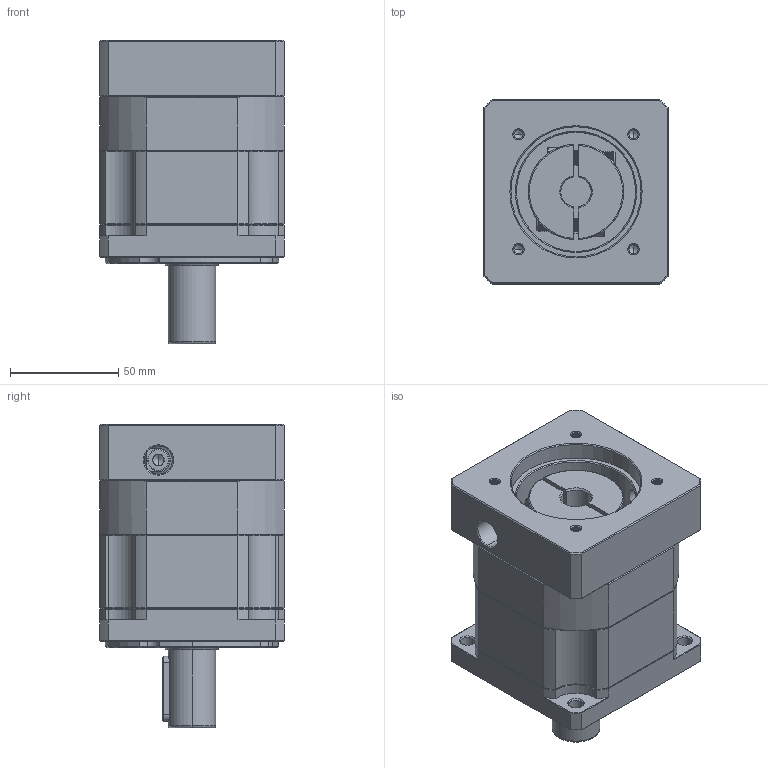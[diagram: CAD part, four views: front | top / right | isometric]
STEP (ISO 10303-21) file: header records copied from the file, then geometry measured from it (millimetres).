
FILE_DESCRIPTION (( 'STEP AP214' ), '1' );
FILE_NAME ('ZB090-D22-L1-P2-14-60-75-M5.step', '2023-08-18T12:12:19', ( '' ), ( '' ), 'SwSTEP 2.0', 'SolidWorks 2016', '' );
FILE_SCHEMA (( 'AUTOMOTIVE_DESIGN' ));
Length unit declared in the file: millimetre
Products named in the file (1): ZB090-D22-L1-P2-14-60-75-M5
Bounding box: 85 x 85 x 140 mm (x, y, z)
Volume: 621606.8 mm3; surface area: 85569.4 mm2
Topology: 4 solids, 5 shells, 2224 faces, 5900 edges, 3761 vertices
Faces by surface type: plane 1062, bspline 397, cylinder 396, cone 342, torus 27
Entity records: 120860 total; most frequent: CARTESIAN_POINT 44589, ORIENTED_EDGE 11756, DIRECTION 9204, EDGE_CURVE 5878, VERTEX_POINT 3761, VECTOR 3728, LINE 3728, AXIS2_PLACEMENT_3D 2738
